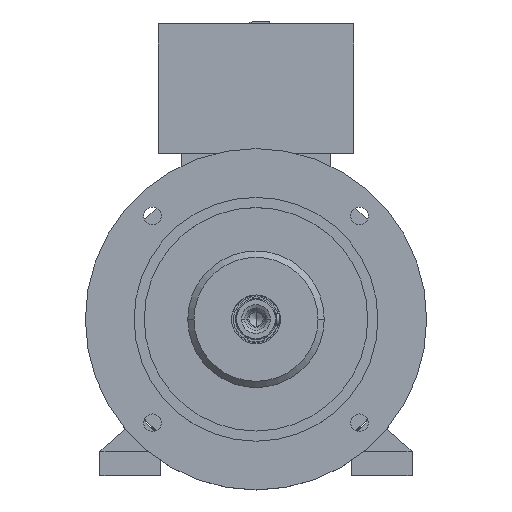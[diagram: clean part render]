
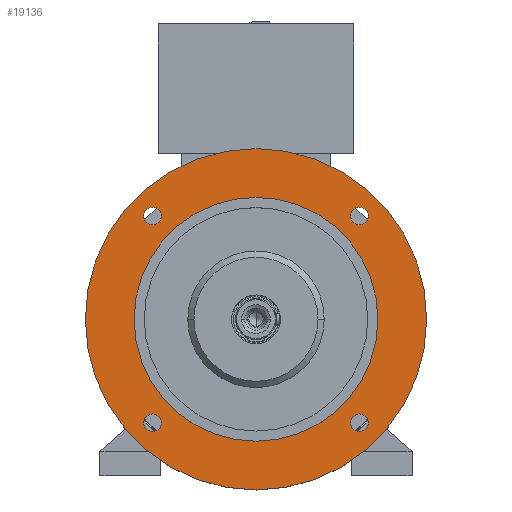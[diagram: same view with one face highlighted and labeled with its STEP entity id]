
A CAD part, top view. The second image highlights one B-rep face of the part: STEP entity #19136.
In plain terms, the highlighted planar face has unit normal (0, 0, 1).
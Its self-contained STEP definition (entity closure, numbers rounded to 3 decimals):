
#49 = CARTESIAN_POINT ( 'NONE',  ( -115.066, -106.066, 235. ) ) ;
#100 = CARTESIAN_POINT ( 'NONE',  ( 125., 0., 235. ) ) ;
#219 = CARTESIAN_POINT ( 'NONE',  ( 106.066, -106.066, 235. ) ) ;
#412 = VERTEX_POINT ( 'NONE', #18841 ) ;
#720 = CARTESIAN_POINT ( 'NONE',  ( -106.066, 106.066, 235. ) ) ;
#885 = VERTEX_POINT ( 'NONE', #2157 ) ;
#887 = AXIS2_PLACEMENT_3D ( 'NONE', #17529, #19372, #6819 ) ;
#957 = EDGE_CURVE ( 'NONE', #412, #22966, #22106, .T. ) ;
#1154 = VERTEX_POINT ( 'NONE', #7306 ) ;
#1188 = DIRECTION ( 'NONE',  ( 0., 0., -1. ) ) ;
#1446 = ORIENTED_EDGE ( 'NONE', *, *, #23137, .T. ) ;
#1526 = CARTESIAN_POINT ( 'NONE',  ( 97.066, 106.066, 235. ) ) ;
#1673 = FACE_BOUND ( 'NONE', #14856, .T. ) ;
#2157 = CARTESIAN_POINT ( 'NONE',  ( 97.066, -106.066, 235. ) ) ;
#2524 = FACE_BOUND ( 'NONE', #8574, .T. ) ;
#2656 = DIRECTION ( 'NONE',  ( 0., 0., -1. ) ) ;
#2813 = CIRCLE ( 'NONE', #3306, 125. ) ;
#2826 = CIRCLE ( 'NONE', #7289, 9. ) ;
#2841 = VERTEX_POINT ( 'NONE', #14345 ) ;
#2931 = ORIENTED_EDGE ( 'NONE', *, *, #13431, .T. ) ;
#3306 = AXIS2_PLACEMENT_3D ( 'NONE', #12068, #1188, #15842 ) ;
#3716 = DIRECTION ( 'NONE',  ( 1., 0., 0. ) ) ;
#3840 = DIRECTION ( 'NONE',  ( 1., 0., 0. ) ) ;
#4013 = DIRECTION ( 'NONE',  ( 0., 0., -1. ) ) ;
#4277 = CARTESIAN_POINT ( 'NONE',  ( 106.066, 106.066, 235. ) ) ;
#4477 = CIRCLE ( 'NONE', #18037, 9. ) ;
#4589 = DIRECTION ( 'NONE',  ( 0., 0., -1. ) ) ;
#5153 = CARTESIAN_POINT ( 'NONE',  ( -97.066, 106.066, 235. ) ) ;
#5475 = FACE_OUTER_BOUND ( 'NONE', #9606, .T. ) ;
#5766 = CIRCLE ( 'NONE', #12881, 9. ) ;
#5909 = DIRECTION ( 'NONE',  ( 0., 0., -1. ) ) ;
#5938 = ORIENTED_EDGE ( 'NONE', *, *, #20965, .T. ) ;
#6097 = DIRECTION ( 'NONE',  ( 0., 0., -1. ) ) ;
#6201 = ORIENTED_EDGE ( 'NONE', *, *, #12714, .T. ) ;
#6503 = EDGE_CURVE ( 'NONE', #12100, #13680, #15980, .T. ) ;
#6819 = DIRECTION ( 'NONE',  ( 1., 0., 0. ) ) ;
#7289 = AXIS2_PLACEMENT_3D ( 'NONE', #16062, #14364, #8798 ) ;
#7306 = CARTESIAN_POINT ( 'NONE',  ( 115.066, 106.066, 235. ) ) ;
#7519 = CIRCLE ( 'NONE', #10849, 9. ) ;
#7649 = ORIENTED_EDGE ( 'NONE', *, *, #15580, .T. ) ;
#8193 = ORIENTED_EDGE ( 'NONE', *, *, #23551, .T. ) ;
#8574 = EDGE_LOOP ( 'NONE', ( #6201, #15412 ) ) ;
#8798 = DIRECTION ( 'NONE',  ( 1., 0., 0. ) ) ;
#8811 = EDGE_CURVE ( 'NONE', #1154, #23862, #2826, .T. ) ;
#8832 = EDGE_LOOP ( 'NONE', ( #1446, #5938 ) ) ;
#8925 = FACE_BOUND ( 'NONE', #12006, .T. ) ;
#9378 = EDGE_CURVE ( 'NONE', #885, #13725, #5766, .T. ) ;
#9525 = ORIENTED_EDGE ( 'NONE', *, *, #8811, .T. ) ;
#9570 = PLANE ( 'NONE',  #19727 ) ;
#9606 = EDGE_LOOP ( 'NONE', ( #9718, #22920 ) ) ;
#9718 = ORIENTED_EDGE ( 'NONE', *, *, #957, .F. ) ;
#10598 = CARTESIAN_POINT ( 'NONE',  ( -97.066, -106.066, 235. ) ) ;
#10849 = AXIS2_PLACEMENT_3D ( 'NONE', #15630, #2656, #15553 ) ;
#11297 = AXIS2_PLACEMENT_3D ( 'NONE', #21032, #13768, #22860 ) ;
#12006 = EDGE_LOOP ( 'NONE', ( #9525, #7649 ) ) ;
#12068 = CARTESIAN_POINT ( 'NONE',  ( 0., 0., 235. ) ) ;
#12100 = VERTEX_POINT ( 'NONE', #49 ) ;
#12714 = EDGE_CURVE ( 'NONE', #13725, #885, #17338, .T. ) ;
#12823 = CARTESIAN_POINT ( 'NONE',  ( -106.066, -106.066, 235. ) ) ;
#12855 = CARTESIAN_POINT ( 'NONE',  ( 115.066, -106.066, 235. ) ) ;
#12881 = AXIS2_PLACEMENT_3D ( 'NONE', #219, #5909, #22669 ) ;
#12893 = CIRCLE ( 'NONE', #12927, 9. ) ;
#12927 = AXIS2_PLACEMENT_3D ( 'NONE', #4277, #6097, #20907 ) ;
#13339 = EDGE_CURVE ( 'NONE', #21881, #2841, #17039, .T. ) ;
#13431 = EDGE_CURVE ( 'NONE', #2841, #21881, #2813, .T. ) ;
#13680 = VERTEX_POINT ( 'NONE', #10598 ) ;
#13725 = VERTEX_POINT ( 'NONE', #12855 ) ;
#13768 = DIRECTION ( 'NONE',  ( 0., 0., -1. ) ) ;
#14345 = CARTESIAN_POINT ( 'NONE',  ( -125., 0., 235. ) ) ;
#14364 = DIRECTION ( 'NONE',  ( 0., 0., -1. ) ) ;
#14856 = EDGE_LOOP ( 'NONE', ( #8193, #21952 ) ) ;
#15067 = EDGE_CURVE ( 'NONE', #22966, #412, #19224, .T. ) ;
#15412 = ORIENTED_EDGE ( 'NONE', *, *, #9378, .T. ) ;
#15532 = CARTESIAN_POINT ( 'NONE',  ( 0., 0., 235. ) ) ;
#15533 = DIRECTION ( 'NONE',  ( 0., 0., -1. ) ) ;
#15553 = DIRECTION ( 'NONE',  ( 1., 0., 0. ) ) ;
#15580 = EDGE_CURVE ( 'NONE', #23862, #1154, #12893, .T. ) ;
#15630 = CARTESIAN_POINT ( 'NONE',  ( -106.066, -106.066, 235. ) ) ;
#15842 = DIRECTION ( 'NONE',  ( -1., 0., 0. ) ) ;
#15980 = CIRCLE ( 'NONE', #20608, 9. ) ;
#16062 = CARTESIAN_POINT ( 'NONE',  ( 106.066, 106.066, 235. ) ) ;
#16248 = DIRECTION ( 'NONE',  ( -1., 0., 0. ) ) ;
#16980 = CARTESIAN_POINT ( 'NONE',  ( 175., 0., 235. ) ) ;
#17039 = CIRCLE ( 'NONE', #18932, 125. ) ;
#17222 = DIRECTION ( 'NONE',  ( -1., 0., 0. ) ) ;
#17338 = CIRCLE ( 'NONE', #23395, 9. ) ;
#17529 = CARTESIAN_POINT ( 'NONE',  ( -106.066, 106.066, 235. ) ) ;
#17554 = CARTESIAN_POINT ( 'NONE',  ( -115.066, 106.066, 235. ) ) ;
#17613 = DIRECTION ( 'NONE',  ( 1., 0., 0. ) ) ;
#17878 = FACE_BOUND ( 'NONE', #22627, .T. ) ;
#18037 = AXIS2_PLACEMENT_3D ( 'NONE', #720, #15533, #17613 ) ;
#18370 = DIRECTION ( 'NONE',  ( 1., 0., 0. ) ) ;
#18493 = VERTEX_POINT ( 'NONE', #5153 ) ;
#18803 = CARTESIAN_POINT ( 'NONE',  ( 106.066, -106.066, 235. ) ) ;
#18841 = CARTESIAN_POINT ( 'NONE',  ( -175., 0., 235. ) ) ;
#18932 = AXIS2_PLACEMENT_3D ( 'NONE', #15532, #19303, #17222 ) ;
#19136 = ADVANCED_FACE ( 'NONE', ( #5475, #17878, #2524, #8925, #19594, #1673 ), #9570, .T. ) ;
#19224 = CIRCLE ( 'NONE', #11297, 175. ) ;
#19303 = DIRECTION ( 'NONE',  ( 0., 0., -1. ) ) ;
#19372 = DIRECTION ( 'NONE',  ( 0., 0., -1. ) ) ;
#19594 = FACE_BOUND ( 'NONE', #8832, .T. ) ;
#19727 = AXIS2_PLACEMENT_3D ( 'NONE', #22367, #20438, #3716 ) ;
#19757 = ORIENTED_EDGE ( 'NONE', *, *, #13339, .T. ) ;
#20438 = DIRECTION ( 'NONE',  ( 0., 0., 1. ) ) ;
#20571 = AXIS2_PLACEMENT_3D ( 'NONE', #22900, #4589, #16248 ) ;
#20608 = AXIS2_PLACEMENT_3D ( 'NONE', #12823, #21827, #18370 ) ;
#20907 = DIRECTION ( 'NONE',  ( 1., 0., 0. ) ) ;
#20965 = EDGE_CURVE ( 'NONE', #23582, #18493, #4477, .T. ) ;
#21032 = CARTESIAN_POINT ( 'NONE',  ( 0., 0., 235. ) ) ;
#21827 = DIRECTION ( 'NONE',  ( 0., 0., -1. ) ) ;
#21881 = VERTEX_POINT ( 'NONE', #100 ) ;
#21952 = ORIENTED_EDGE ( 'NONE', *, *, #6503, .T. ) ;
#22106 = CIRCLE ( 'NONE', #20571, 175. ) ;
#22269 = CIRCLE ( 'NONE', #887, 9. ) ;
#22367 = CARTESIAN_POINT ( 'NONE',  ( 0., 175., 235. ) ) ;
#22627 = EDGE_LOOP ( 'NONE', ( #2931, #19757 ) ) ;
#22669 = DIRECTION ( 'NONE',  ( 1., 0., 0. ) ) ;
#22860 = DIRECTION ( 'NONE',  ( -1., 0., 0. ) ) ;
#22900 = CARTESIAN_POINT ( 'NONE',  ( 0., 0., 235. ) ) ;
#22920 = ORIENTED_EDGE ( 'NONE', *, *, #15067, .F. ) ;
#22966 = VERTEX_POINT ( 'NONE', #16980 ) ;
#23137 = EDGE_CURVE ( 'NONE', #18493, #23582, #22269, .T. ) ;
#23395 = AXIS2_PLACEMENT_3D ( 'NONE', #18803, #4013, #3840 ) ;
#23551 = EDGE_CURVE ( 'NONE', #13680, #12100, #7519, .T. ) ;
#23582 = VERTEX_POINT ( 'NONE', #17554 ) ;
#23862 = VERTEX_POINT ( 'NONE', #1526 ) ;
